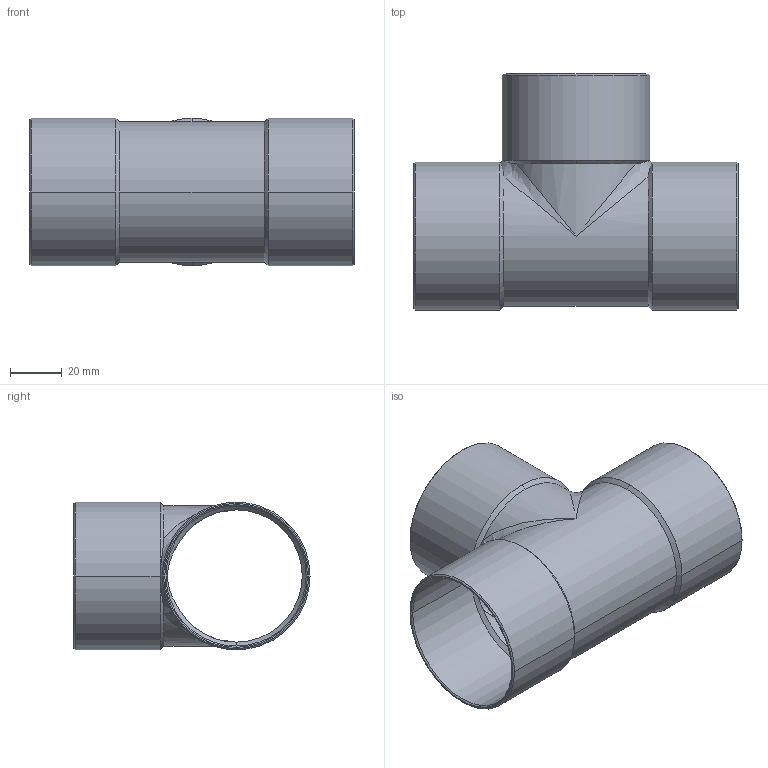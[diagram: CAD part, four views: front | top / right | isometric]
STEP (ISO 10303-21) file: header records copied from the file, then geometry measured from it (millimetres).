
FILE_DESCRIPTION((''),'2;1');
FILE_NAME('P:\Bouwmaten\z-maattekeningen 3D\5000\5130\d\513054.stp','2005-10-19T08:46:41',('Kris'),(''),'Autodesk Inventor 8','Autodesk Inventor 8','');
FILE_SCHEMA(('AUTOMOTIVE_DESIGN { 1 0 10303 214 1 1 1 1 }'));
Length unit declared in the file: millimetre
Products named in the file (1): 513054
Bounding box: 125 x 91 x 57 mm (x, y, z)
Volume: 39574.1 mm3; surface area: 53408.8 mm2
Topology: 1 solids, 1 shells, 51 faces, 142 edges, 84 vertices
Faces by surface type: cone 24, cylinder 20, bspline 4, plane 3
Entity records: 2175 total; most frequent: CARTESIAN_POINT 834, DIRECTION 310, ORIENTED_EDGE 268, AXIS2_PLACEMENT_3D 136, EDGE_CURVE 134, VERTEX_POINT 84, CIRCLE 72, EDGE_LOOP 54
